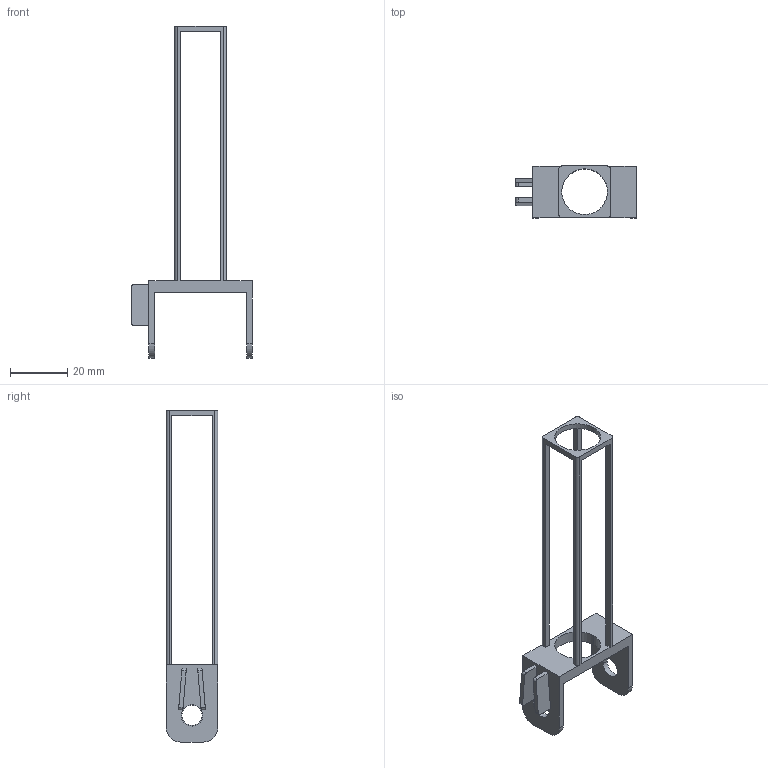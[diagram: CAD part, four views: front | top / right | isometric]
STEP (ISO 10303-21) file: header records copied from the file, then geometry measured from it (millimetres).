
FILE_DESCRIPTION((''),'2;1');
FILE_NAME('TOP','2026-11-09T',('PC'),(''),'PRO/ENGINEER BY PARAMETRIC TECHNOLOGY CORPORATION, 2014320','PRO/ENGINEER BY PARAMETRIC TECHNOLOGY CORPORATION, 2014320','');
FILE_SCHEMA(('CONFIG_CONTROL_DESIGN'));
Length unit declared in the file: millimetre
Products named in the file (1): TOP
Bounding box: 42.18 x 18 x 116 mm (x, y, z)
Volume: 5052 mm3; surface area: 6759.5 mm2
Topology: 1 solids, 3 shells, 60 faces, 170 edges, 112 vertices
Faces by surface type: plane 36, cylinder 24
Entity records: 2026 total; most frequent: CARTESIAN_POINT 378, ORIENTED_EDGE 340, DIRECTION 324, EDGE_CURVE 170, VECTOR 120, LINE 120, VERTEX_POINT 112, AXIS2_PLACEMENT_3D 102
